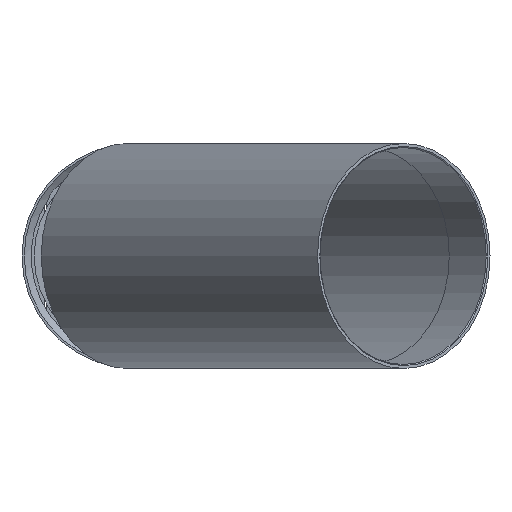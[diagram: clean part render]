
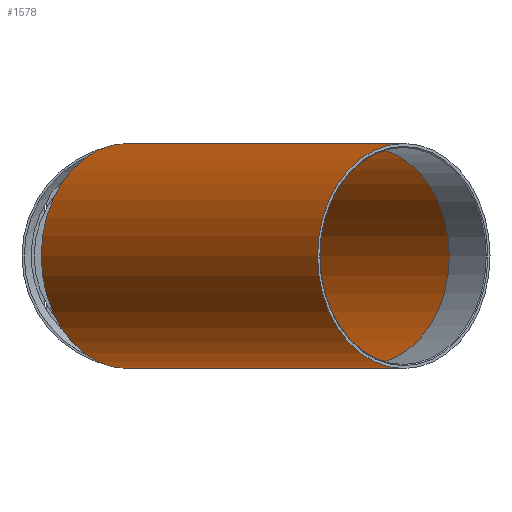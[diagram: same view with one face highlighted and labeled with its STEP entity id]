
A CAD part, front view. The second image highlights one B-rep face of the part: STEP entity #1578.
In plain terms, the highlighted cylindrical face has radius 25 mm (diameter 50 mm), a full revolution.
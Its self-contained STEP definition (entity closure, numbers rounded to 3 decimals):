
#31=CYLINDRICAL_SURFACE('',#1742,25.);
#108=FACE_OUTER_BOUND('',#171,.T.);
#171=EDGE_LOOP('',(#1384,#1385,#1386,#1387,#1388,#1389));
#255=LINE('',#3293,#335);
#335=VECTOR('',#2079,25.);
#455=CIRCLE('',#1736,25.);
#456=CIRCLE('',#1737,25.);
#457=CIRCLE('',#1739,25.);
#458=CIRCLE('',#1740,25.);
#763=VERTEX_POINT('',#3281);
#764=VERTEX_POINT('',#3282);
#765=VERTEX_POINT('',#3286);
#766=VERTEX_POINT('',#3287);
#1044=EDGE_CURVE('',#763,#764,#455,.T.);
#1045=EDGE_CURVE('',#764,#763,#456,.T.);
#1046=EDGE_CURVE('',#765,#766,#457,.T.);
#1047=EDGE_CURVE('',#766,#765,#458,.T.);
#1049=EDGE_CURVE('',#766,#764,#255,.T.);
#1384=ORIENTED_EDGE('',*,*,#1046,.F.);
#1385=ORIENTED_EDGE('',*,*,#1047,.F.);
#1386=ORIENTED_EDGE('',*,*,#1049,.T.);
#1387=ORIENTED_EDGE('',*,*,#1045,.T.);
#1388=ORIENTED_EDGE('',*,*,#1044,.T.);
#1389=ORIENTED_EDGE('',*,*,#1049,.F.);
#1578=ADVANCED_FACE('',(#108),#31,.T.);
#1736=AXIS2_PLACEMENT_3D('',#3283,#2065,#2066);
#1737=AXIS2_PLACEMENT_3D('',#3284,#2067,#2068);
#1739=AXIS2_PLACEMENT_3D('',#3288,#2071,#2072);
#1740=AXIS2_PLACEMENT_3D('',#3289,#2073,#2074);
#1742=AXIS2_PLACEMENT_3D('',#3292,#2077,#2078);
#2065=DIRECTION('center_axis',(-0.643,0.766,0.));
#2066=DIRECTION('ref_axis',(0.766,0.643,0.));
#2067=DIRECTION('center_axis',(-0.643,0.766,0.));
#2068=DIRECTION('ref_axis',(0.766,0.643,0.));
#2071=DIRECTION('center_axis',(-0.643,0.766,0.));
#2072=DIRECTION('ref_axis',(0.766,0.643,0.));
#2073=DIRECTION('center_axis',(-0.643,0.766,0.));
#2074=DIRECTION('ref_axis',(0.766,0.643,0.));
#2077=DIRECTION('center_axis',(-0.643,0.766,0.));
#2078=DIRECTION('ref_axis',(0.,0.,
1.));
#2079=DIRECTION('',(0.643,-0.766,0.));
#3281=CARTESIAN_POINT('',(59.812,-87.833,25.));
#3282=CARTESIAN_POINT('',(59.812,-87.833,-25.));
#3283=CARTESIAN_POINT('Origin',(59.812,-87.833,0.));
#3284=CARTESIAN_POINT('Origin',(59.812,-87.833,0.));
#3286=CARTESIAN_POINT('',(-1.574,-14.676,25.));
#3287=CARTESIAN_POINT('',(-1.574,-14.676,-25.));
#3288=CARTESIAN_POINT('Origin',(-1.574,-14.676,0.));
#3289=CARTESIAN_POINT('Origin',(-1.574,-14.676,0.));
#3292=CARTESIAN_POINT('Origin',(29.119,-51.254,0.));
#3293=CARTESIAN_POINT('',(29.119,-51.254,-25.));
